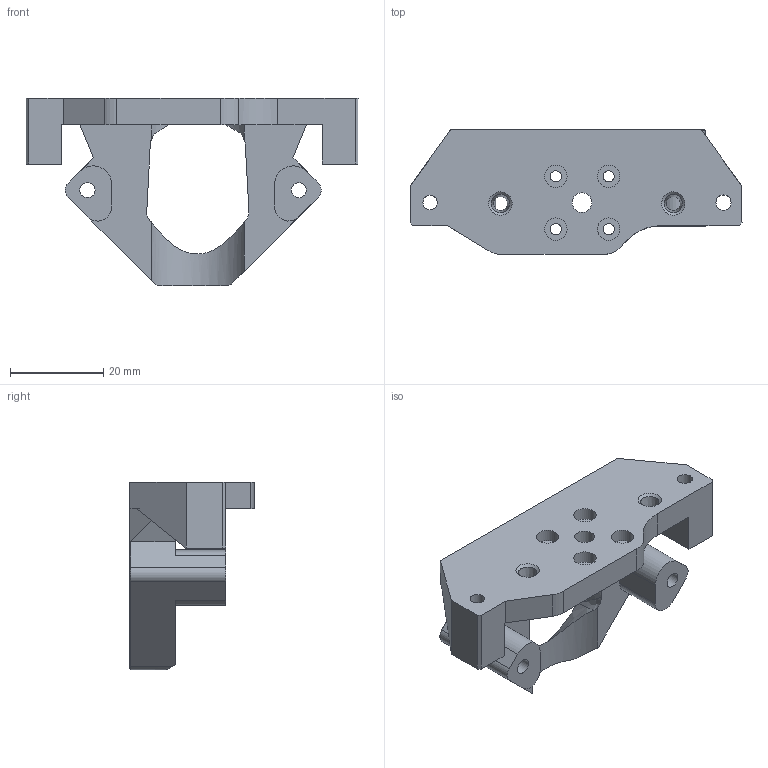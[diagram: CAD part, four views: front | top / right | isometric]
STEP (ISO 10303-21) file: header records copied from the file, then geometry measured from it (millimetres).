
FILE_DESCRIPTION(/* description */ (''),/* implementation_level */ '2;1');
FILE_NAME(/* name */ 'C:/Users/Martin/Documents/icarus-2.1/icarus-2-current-step-files/2-mounts/mount-orbiter-2.0-rapido-hf-2.1.step',/* time_stamp */ '2022-08-22T19:11:43+02:00',/* author */ (''),/* organization */ (''),/* preprocessor_version */ 'ST-DEVELOPER v19',/* originating_system */ 'Autodesk Translation Framework v11.7.0.108',/* authorisation */ '');
FILE_SCHEMA (('AUTOMOTIVE_DESIGN { 1 0 10303 214 3 1 1 }'));
Length unit declared in the file: millimetre
Products named in the file (1): mount-rapido
Bounding box: 71.07 x 26.66 x 40.18 mm (x, y, z)
Volume: 16834.4 mm3; surface area: 9284.1 mm2
Topology: 1 solids, 1 shells, 105 faces, 282 edges, 182 vertices
Faces by surface type: plane 43, cylinder 28, bspline 26, cone 8
Full cylindrical faces by diameter (mm): 2.4 x4, 3.1 x1, 3.25 x5, 4.2 x1, 4.8 x4
Entity records: 4547 total; most frequent: CARTESIAN_POINT 1982, ORIENTED_EDGE 564, DIRECTION 442, EDGE_CURVE 282, VERTEX_POINT 182, LINE 156, VECTOR 156, AXIS2_PLACEMENT_3D 143
